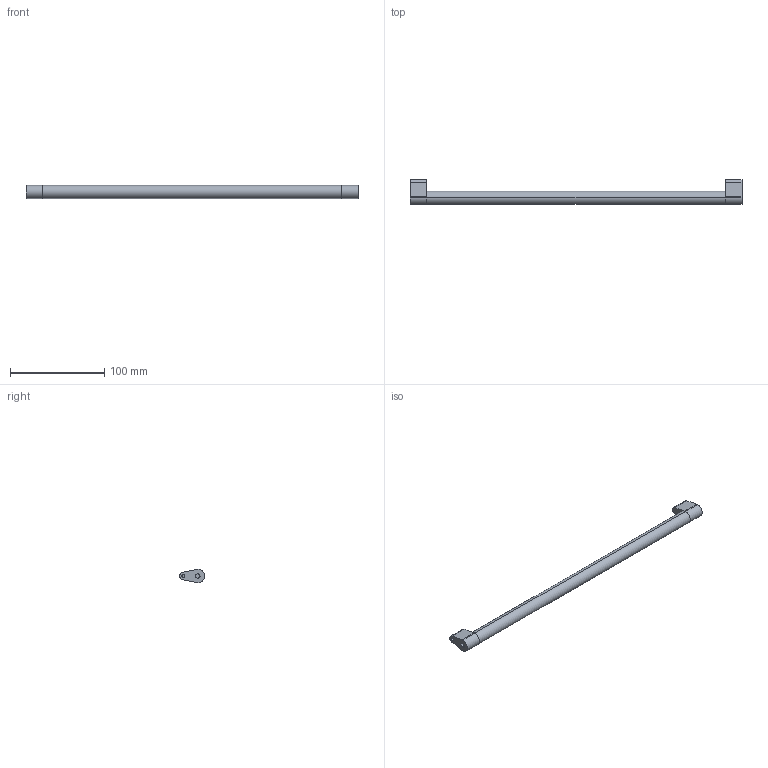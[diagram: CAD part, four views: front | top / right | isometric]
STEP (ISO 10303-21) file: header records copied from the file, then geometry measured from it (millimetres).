
FILE_DESCRIPTION (( 'STEP AP214' ), '1' );
FILE_NAME ('_Synchronisationseinheit DWD XP KAB450_S18.step', '2010-07-08T13:58:23', ( 'grass' ), ( '' ), 'SwSTEP 2.0', 'SolidWorks 2010', '' );
FILE_SCHEMA (( 'AUTOMOTIVE_DESIGN' ));
Length unit declared in the file: millimetre
Products named in the file (1): _Synchronisationseinheit DWD XP KAB450_S18
Bounding box: 353 x 26.5 x 14 mm (x, y, z)
Volume: 58027 mm3; surface area: 18372.7 mm2
Topology: 3 solids, 3 shells, 36 faces, 78 edges, 52 vertices
Faces by surface type: cylinder 18, plane 18
Entity records: 1050 total; most frequent: DIRECTION 188, CARTESIAN_POINT 167, ORIENTED_EDGE 156, EDGE_CURVE 78, AXIS2_PLACEMENT_3D 73, VERTEX_POINT 52, VECTOR 42, LINE 42
